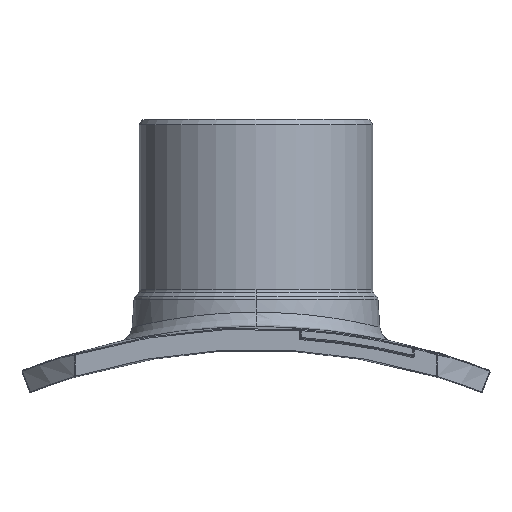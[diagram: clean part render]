
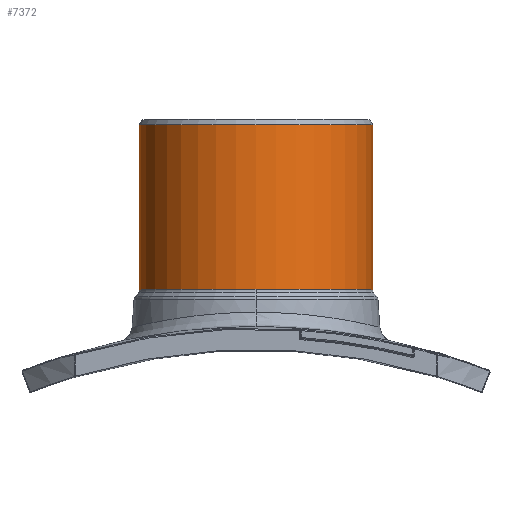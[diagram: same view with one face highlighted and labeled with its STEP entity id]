
A CAD part, top view. The second image highlights one B-rep face of the part: STEP entity #7372.
In plain terms, the highlighted cylindrical face has radius 112.5 mm (diameter 225 mm), a partial arc.
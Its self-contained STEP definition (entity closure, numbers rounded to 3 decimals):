
#1601=CARTESIAN_POINT('',(0.,658.122,0.));
#1602=DIRECTION('',(0.,-1.,0.));
#1603=DIRECTION('',(1.,0.,0.));
#1604=AXIS2_PLACEMENT_3D('',#1601,#1602,#1603);
#1609=CARTESIAN_POINT('',(0.,658.122,0.));
#1610=DIRECTION('',(0.,-1.,0.));
#1611=DIRECTION('',(0.,0.,1.));
#1612=AXIS2_PLACEMENT_3D('',#1609,#1610,#1611);
#1617=DIRECTION('',(0.,-1.,0.));
#1618=VECTOR('',#1617,158.878);
#1619=CARTESIAN_POINT('',(-112.5,817.,0.));
#1620=LINE('151588',#1619,#1618);
#1624=DIRECTION('',(0.,-1.,0.));
#1625=VECTOR('',#1624,158.878);
#1626=CARTESIAN_POINT('',(112.5,817.,0.));
#1627=LINE('151587',#1626,#1625);
#1678=CARTESIAN_POINT('',(0.,817.,0.));
#1679=DIRECTION('',(0.,1.,0.));
#1680=DIRECTION('',(-1.,0.,0.));
#1681=AXIS2_PLACEMENT_3D('',#1678,#1679,#1680);
#5775=CARTESIAN_POINT('',(112.5,817.,0.));
#5776=CARTESIAN_POINT('',(-112.5,817.,0.));
#5777=VERTEX_POINT('',#5775);
#5778=VERTEX_POINT('',#5776);
#5799=CARTESIAN_POINT('',(112.5,658.122,0.));
#5800=CARTESIAN_POINT('',(0.,658.122,112.5));
#5801=VERTEX_POINT('',#5799);
#5802=VERTEX_POINT('',#5800);
#5803=CARTESIAN_POINT('',(-112.5,658.122,0.));
#5804=VERTEX_POINT('',#5803);
#7357=CARTESIAN_POINT('',(0.,822.,0.));
#7358=DIRECTION('',(0.,1.,0.));
#7359=DIRECTION('',(1.,0.,0.));
#7360=AXIS2_PLACEMENT_3D('',#7357,#7358,#7359);
#7361=CYLINDRICAL_SURFACE('4584',#7360,112.5);
#7362=ORIENTED_EDGE('151579',*,*,#7334,.T.);
#7363=ORIENTED_EDGE('151581',*,*,#7349,.T.);
#7365=ORIENTED_EDGE('151588',*,*,#7364,.F.);
#7367=ORIENTED_EDGE('4600',*,*,#7366,.T.);
#7369=ORIENTED_EDGE('151587',*,*,#7368,.T.);
#7370=EDGE_LOOP('4584',(#7362,#7363,#7365,#7367,#7369));
#7371=FACE_OUTER_BOUND('4584',#7370,.F.);
#1605=CIRCLE('151579',#1604,112.5);
#1613=CIRCLE('151581',#1612,112.5);
#1682=CIRCLE('4600',#1681,112.5);
#7334=EDGE_CURVE('151579',#5801,#5802,#1605,.T.);
#7349=EDGE_CURVE('151581',#5802,#5804,#1613,.T.);
#7364=EDGE_CURVE('151588',#5778,#5804,#1620,.T.);
#7366=EDGE_CURVE('4600',#5778,#5777,#1682,.T.);
#7368=EDGE_CURVE('151587',#5777,#5801,#1627,.T.);
#7372=ADVANCED_FACE('4584',(#7371),#7361,.T.);
